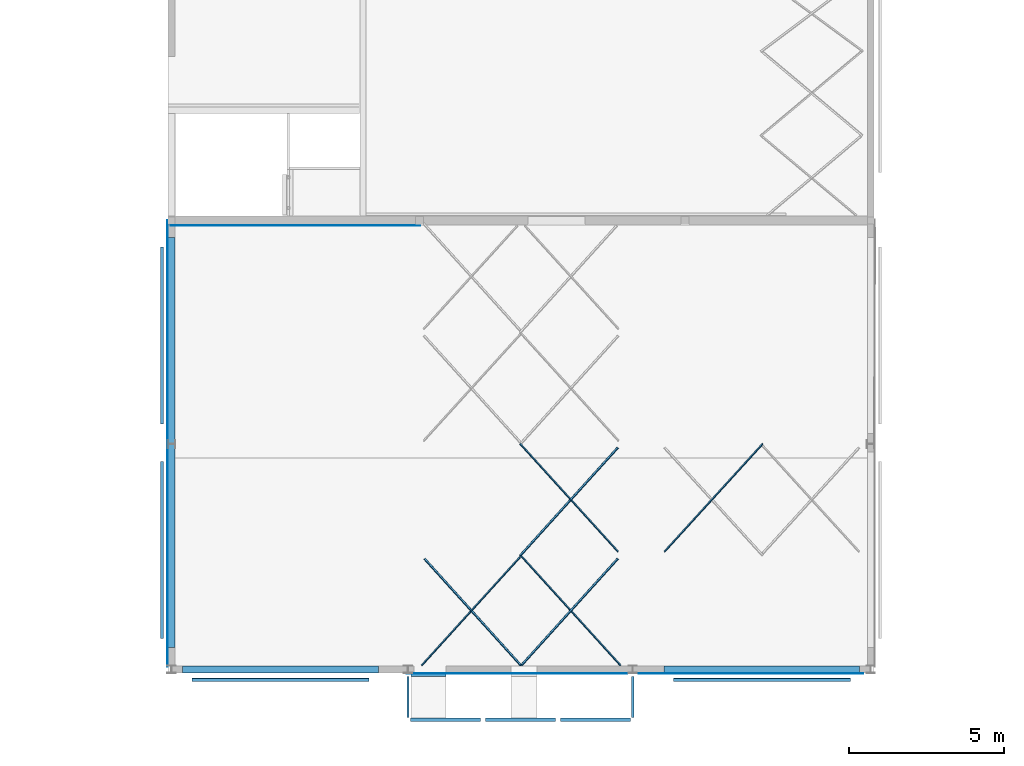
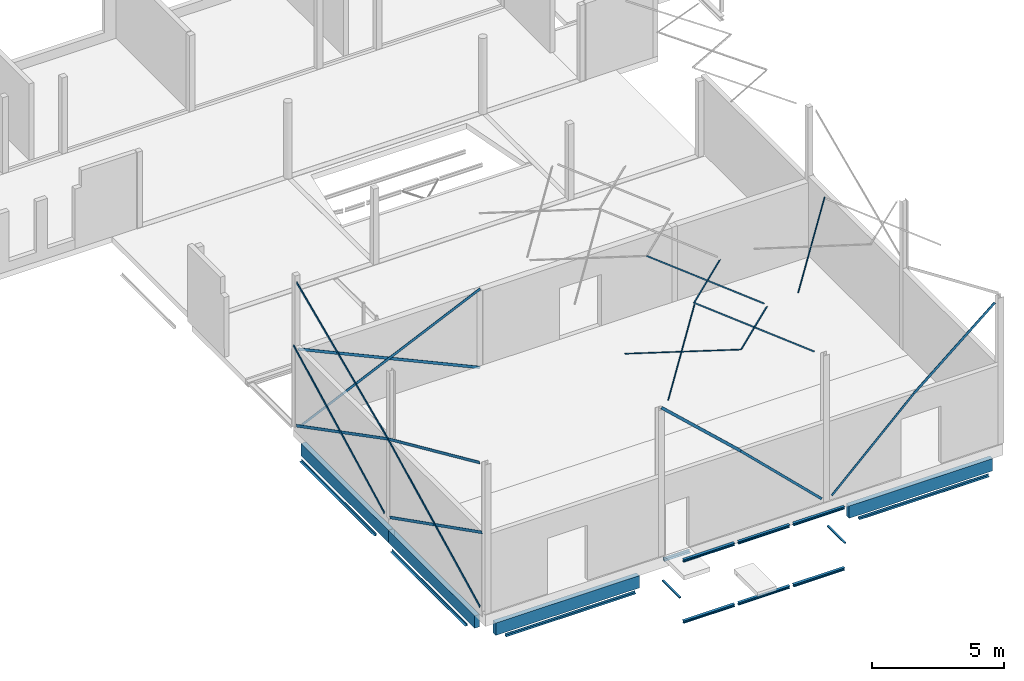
# One storey, part 5 of 14: 36 beams.
"""IFC2X3 building model written with IfcOpenShell, lengths in millimetres."""

from ifc_helpers import new_model, entity, si_unit, converted_unit, derived_unit, direction, frame, frame_2d, origin, origin_2d_with_axis, place, context, subcontext, project, spatial, polyline, rectangle, i_section, outline, extrude, boolean, material, type_object, element, save


model = new_model("IFC2X3")

# Units and contexts
model_context = context("Model", 3, precision=0.01, world=origin(), true_north=direction((6.123031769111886e-17, 1.0)))
body_context = subcontext(model_context, "Body", "Model", "MODEL_VIEW")
ifc_project = project(units=[si_unit("LENGTHUNIT", "METRE", prefix="MILLI"), si_unit("AREAUNIT", "SQUARE_METRE", prefix="MILLI"), si_unit("VOLUMEUNIT", "CUBIC_METRE"), converted_unit("PLANEANGLEUNIT", "DEGREE", entity("IfcPlaneAngleMeasure", 0.017453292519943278), si_unit("PLANEANGLEUNIT", "RADIAN"), dimensions=[0, 0, 0, 0, 0, 0, 0]), si_unit("MASSUNIT", "GRAM", prefix="KILO"), derived_unit("MASSDENSITYUNIT", [(si_unit("MASSUNIT", "GRAM", prefix="KILO"), 1), (si_unit("LENGTHUNIT", "METRE"), -3)]), derived_unit("IONCONCENTRATIONUNIT", [(si_unit("MASSUNIT", "GRAM", prefix="KILO"), 1), (si_unit("LENGTHUNIT", "METRE"), -3)]), derived_unit("MOMENTOFINERTIAUNIT", [(si_unit("LENGTHUNIT", "METRE"), 4)]), si_unit("TIMEUNIT", "SECOND"), si_unit("FREQUENCYUNIT", "HERTZ"), si_unit("THERMODYNAMICTEMPERATUREUNIT", "DEGREE_CELSIUS"), derived_unit("THERMALTRANSMITTANCEUNIT", [(si_unit("MASSUNIT", "GRAM", prefix="KILO"), 1), (si_unit("THERMODYNAMICTEMPERATUREUNIT", "KELVIN"), -1), (si_unit("TIMEUNIT", "SECOND"), -3)]), derived_unit("THERMALCONDUCTANCEUNIT", [(si_unit("MASSUNIT", "GRAM", prefix="KILO"), 1), (si_unit("THERMODYNAMICTEMPERATUREUNIT", "KELVIN"), -1), (si_unit("TIMEUNIT", "SECOND"), -3), (si_unit("LENGTHUNIT", "METRE"), 1)]), derived_unit("VOLUMETRICFLOWRATEUNIT", [(si_unit("LENGTHUNIT", "METRE", prefix="DECI"), 3), (si_unit("TIMEUNIT", "SECOND"), -1)]), derived_unit("MASSFLOWRATEUNIT", [(si_unit("MASSUNIT", "GRAM", prefix="KILO"), 1), (si_unit("TIMEUNIT", "SECOND"), -1)]), derived_unit("ROTATIONALFREQUENCYUNIT", [(si_unit("TIMEUNIT", "SECOND"), -1)]), si_unit("ELECTRICCURRENTUNIT", "AMPERE"), si_unit("ELECTRICVOLTAGEUNIT", "VOLT"), si_unit("POWERUNIT", "WATT"), si_unit("FORCEUNIT", "NEWTON", prefix="KILO"), si_unit("ILLUMINANCEUNIT", "LUX"), si_unit("LUMINOUSFLUXUNIT", "LUMEN"), si_unit("LUMINOUSINTENSITYUNIT", "CANDELA"), si_unit("ENERGYUNIT", "JOULE"), derived_unit("USERDEFINED", [(si_unit("MASSUNIT", "GRAM", prefix="KILO"), -1), (si_unit("LENGTHUNIT", "METRE"), -2), (si_unit("TIMEUNIT", "SECOND"), 3), (si_unit("LUMINOUSFLUXUNIT", "LUMEN"), 1)]), derived_unit("USERDEFINED", [(si_unit("MASSUNIT", "GRAM", prefix="KILO"), 1), (si_unit("TIMEUNIT", "SECOND"), -3), (si_unit("LENGTHUNIT", "METRE"), 3), (si_unit("ELECTRICCURRENTUNIT", "AMPERE"), -2)]), derived_unit("SOUNDPOWERUNIT", [(si_unit("MASSUNIT", "GRAM", prefix="KILO"), 1), (si_unit("TIMEUNIT", "SECOND"), -3), (si_unit("LENGTHUNIT", "METRE"), 2)]), derived_unit("SOUNDPRESSUREUNIT", [(si_unit("MASSUNIT", "GRAM", prefix="KILO"), 1), (si_unit("LENGTHUNIT", "METRE"), -1), (si_unit("TIMEUNIT", "SECOND"), -2)]), derived_unit("LINEARVELOCITYUNIT", [(si_unit("LENGTHUNIT", "METRE"), 1), (si_unit("TIMEUNIT", "SECOND"), -1)]), si_unit("PRESSUREUNIT", "PASCAL"), derived_unit("USERDEFINED", [(si_unit("MASSUNIT", "GRAM", prefix="KILO"), 1), (si_unit("LENGTHUNIT", "METRE"), -2), (si_unit("TIMEUNIT", "SECOND"), -2)]), derived_unit("LINEARFORCEUNIT", [(si_unit("MASSUNIT", "GRAM", prefix="KILO"), 1), (si_unit("TIMEUNIT", "SECOND"), -2)]), derived_unit("PLANARFORCEUNIT", [(si_unit("MASSUNIT", "GRAM", prefix="KILO"), 1), (si_unit("LENGTHUNIT", "METRE"), -1), (si_unit("TIMEUNIT", "SECOND"), -2)]), derived_unit("SPECIFICHEATCAPACITYUNIT", [(si_unit("THERMODYNAMICTEMPERATUREUNIT", "KELVIN"), -1), (si_unit("LENGTHUNIT", "METRE"), 2), (si_unit("TIMEUNIT", "SECOND"), -2)]), derived_unit("HEATFLUXDENSITYUNIT", [(si_unit("MASSUNIT", "GRAM", prefix="KILO"), 1), (si_unit("TIMEUNIT", "SECOND"), -3)]), derived_unit("HEATINGVALUEUNIT", [(si_unit("LENGTHUNIT", "METRE"), 2), (si_unit("TIMEUNIT", "SECOND"), -2)]), derived_unit("VAPORPERMEABILITYUNIT", [(si_unit("LENGTHUNIT", "METRE"), -1), (si_unit("TIMEUNIT", "SECOND"), 1)]), derived_unit("DYNAMICVISCOSITYUNIT", [(si_unit("MASSUNIT", "GRAM", prefix="KILO"), 1), (si_unit("TIMEUNIT", "SECOND"), -1), (si_unit("LENGTHUNIT", "METRE"), -1)]), derived_unit("THERMALEXPANSIONCOEFFICIENTUNIT", [(si_unit("THERMODYNAMICTEMPERATUREUNIT", "KELVIN"), -1)]), derived_unit("MODULUSOFELASTICITYUNIT", [(si_unit("MASSUNIT", "GRAM", prefix="KILO"), 1), (si_unit("LENGTHUNIT", "METRE"), -1), (si_unit("TIMEUNIT", "SECOND"), -2)]), derived_unit("ISOTHERMALMOISTURECAPACITYUNIT", [(si_unit("MASSUNIT", "GRAM", prefix="KILO"), -1), (si_unit("LENGTHUNIT", "METRE"), 3)]), derived_unit("MOISTUREDIFFUSIVITYUNIT", [(si_unit("TIMEUNIT", "SECOND"), -1), (si_unit("LENGTHUNIT", "METRE"), 2)]), derived_unit("MASSPERLENGTHUNIT", [(si_unit("MASSUNIT", "GRAM", prefix="KILO"), 1), (si_unit("LENGTHUNIT", "METRE"), -1)]), derived_unit("THERMALRESISTANCEUNIT", [(si_unit("MASSUNIT", "GRAM", prefix="KILO"), -1), (si_unit("TIMEUNIT", "SECOND"), 3), (si_unit("THERMODYNAMICTEMPERATUREUNIT", "KELVIN"), 1)]), derived_unit("ACCELERATIONUNIT", [(si_unit("LENGTHUNIT", "METRE"), 1), (si_unit("TIMEUNIT", "SECOND"), -2)]), derived_unit("ANGULARVELOCITYUNIT", [(si_unit("TIMEUNIT", "SECOND"), -1), (si_unit("PLANEANGLEUNIT", "RADIAN"), 1)]), derived_unit("LINEARSTIFFNESSUNIT", [(si_unit("MASSUNIT", "GRAM", prefix="KILO"), 1), (si_unit("TIMEUNIT", "SECOND"), -2)]), derived_unit("WARPINGCONSTANTUNIT", [(si_unit("LENGTHUNIT", "METRE"), 6)]), derived_unit("LINEARMOMENTUNIT", [(si_unit("MASSUNIT", "GRAM", prefix="KILO"), 1), (si_unit("LENGTHUNIT", "METRE"), 1), (si_unit("TIMEUNIT", "SECOND"), -2)]), derived_unit("TORQUEUNIT", [(si_unit("MASSUNIT", "GRAM", prefix="KILO"), 1), (si_unit("LENGTHUNIT", "METRE"), 2), (si_unit("TIMEUNIT", "SECOND"), -2)])], contexts=[model_context])

# Site, building, storey
site_placement = place(None, origin())
site = spatial("IfcSite", under=ifc_project, at=site_placement, Name="Default", CompositionType="ELEMENT")
building_placement = place(site_placement, origin())
building = spatial("IfcBuilding", under=site, at=building_placement, CompositionType="ELEMENT")
storey_placement = place(building_placement, frame((0.0, 0.0, 3730.0)))
storey = spatial("IfcBuildingStorey", under=building, at=storey_placement, Name="V1 1e verd. (bk ruwe vloer)", CompositionType="ELEMENT", Elevation=3729.9999999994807)

# Beams
ifc_material_1 = material(Name="Metal - Steel - S235 JRG2 (standaard)")
beam_type_1 = type_object("IfcBeamType", Name="btl_staal - Strip b x h:120x12 Vwvb", PredefinedType="NOTDEFINED")
beam_1_placement = place(storey_placement, frame((14699.863108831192, 17338.605013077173, 0.0), z_axis=(0.41591473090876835, 0.0, 0.9094036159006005), x_axis=(-0.9094036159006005, 0.0, 0.41591473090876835)))
element("IfcBeam", 1, at=beam_1_placement, inside=storey, type_object=beam_type_1, material=ifc_material_1, Name="btl_staal - Strip b x h:120x12 Vwvb", ObjectType="btl_staal - Strip b x h:120x12 Vwvb", context=body_context, shape_type="SweptSolid", body=[
    extrude(rectangle(XDim=119.99999999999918, YDim=12.00000000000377, at=frame_2d((-4.938272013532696e-13, -1.0826894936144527e-12), x_axis=(1.0, 0.0))), frame((0.0, 0.0, 0.0), z_axis=(1.0, 0.0, 0.0), x_axis=(0.0, 0.0, -1.0)), (0.0, 0.0, 1.0), 8777.029459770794),
])
beam_2_placement = place(storey_placement, frame((6592.000781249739, 17501.361760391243, 6967.95310455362), z_axis=(0.0, -0.4024576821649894, 0.9154385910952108), x_axis=(0.0, -0.9154385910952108, -0.4024576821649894)))
element("IfcBeam", 2, at=beam_2_placement, inside=storey, type_object=beam_type_1, material=ifc_material_1, Name="btl_staal - Strip b x h:120x12 Vwvb", ObjectType="btl_staal - Strip b x h:120x12 Vwvb", context=body_context, shape_type="SweptSolid", body=[
    extrude(rectangle(XDim=119.9999999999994, YDim=12.00000000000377, at=frame_2d((-1.4281908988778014e-12, 0.0), x_axis=(1.0, 0.0))), frame((300.0, -5.0, 0.0), z_axis=(1.0, 0.0, 0.0), x_axis=(0.0, 0.0, -1.0)), (0.0, 0.0, 1.0), 7571.518534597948),
])
beam_3_placement = place(storey_placement, frame((6592.000781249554, 3043.397231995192, 7054.203124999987), z_axis=(0.0, 0.4094426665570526, 0.9123358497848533), x_axis=(0.0, 0.9123358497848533, -0.4094426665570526)))
element("IfcBeam", 3, at=beam_3_placement, inside=storey, type_object=beam_type_1, material=ifc_material_1, Name="btl_staal - Strip b x h:120x12 Vwvb", ObjectType="btl_staal - Strip b x h:120x12 Vwvb", context=body_context, shape_type="SweptSolid", body=[
    extrude(rectangle(XDim=120.00000000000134, YDim=12.000000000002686, at=frame_2d((0.0, -5.413447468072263e-13), x_axis=(1.0, 0.0))), frame((300.0, 5.0, 0.0), z_axis=(1.0, 0.0, 0.0), x_axis=(0.0, 0.0, -1.0)), (0.0, 0.0, 1.0), 7647.884748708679),
])
beam_4_placement = place(storey_placement, frame((6828.0007812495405, 17338.605013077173, 50.30837749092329), z_axis=(-0.41591473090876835, 0.0, 0.9094036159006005), x_axis=(0.9094036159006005, 0.0, 0.41591473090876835)))
element("IfcBeam", 4, at=beam_4_placement, inside=storey, type_object=beam_type_1, material=ifc_material_1, Name="btl_staal - Strip b x h:120x12 Vwvb", ObjectType="btl_staal - Strip b x h:120x12 Vwvb", context=body_context, shape_type="SweptSolid", body=[
    extrude(rectangle(XDim=120.0000000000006, YDim=12.00000000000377, at=frame_2d((-7.212008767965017e-13, 0.0), x_axis=(1.0, 0.0))), frame((0.0, 0.0, 0.0), z_axis=(1.0, 0.0, 0.0), x_axis=(0.0, 0.0, -1.0)), (0.0, 0.0, 1.0), 8656.071066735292),
])
beam_5_placement = place(storey_placement, frame((6592.000781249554, 10295.441499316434, 3800.0), z_axis=(0.0, -0.4521806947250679, 0.8919263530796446), x_axis=(0.0, -0.8919263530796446, -0.4521806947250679)))
element("IfcBeam", 5, at=beam_5_placement, inside=storey, type_object=beam_type_1, material=ifc_material_1, Name="btl_staal - Strip b x h:120x12 Vwvb", ObjectType="btl_staal - Strip b x h:120x12 Vwvb", context=body_context, shape_type="SweptSolid", body=[
    extrude(rectangle(XDim=119.99999999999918, YDim=12.000000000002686, at=frame_2d((-9.734435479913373e-13, -5.413447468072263e-13), x_axis=(1.0, 0.0))), frame((0.0, -5.0, 0.0), z_axis=(1.0, 0.0, 0.0), x_axis=(0.0, 0.0, -1.0)), (0.0, 0.0, 1.0), 7838.339480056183),
])
beam_6_placement = place(storey_placement, frame((6592.0007812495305, 10295.473670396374, 3800.0), z_axis=(0.0, 0.4600638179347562, 0.88788585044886), x_axis=(0.0, 0.88788585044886, -0.4600638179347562)))
element("IfcBeam", 6, at=beam_6_placement, inside=storey, type_object=beam_type_1, material=ifc_material_1, Name="btl_staal - Strip b x h:120x12 Vwvb", ObjectType="btl_staal - Strip b x h:120x12 Vwvb", context=body_context, shape_type="SweptSolid", body=[
    extrude(rectangle(XDim=120.00000000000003, YDim=12.00000000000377, at=frame_2d((-9.627854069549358e-13, 5.413447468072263e-13), x_axis=(1.0, 0.0))), frame((28.764989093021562, 5.0, 0.0), z_axis=(1.0, 0.0, 0.0), x_axis=(0.0, 0.0, -1.0)), (0.0, 0.0, 1.0), 7778.80586215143),
])
beam_7_placement = place(storey_placement, frame((25402.144051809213, 2907.6050130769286, 3800.0), z_axis=(-0.641634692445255, 0.0, 0.7670103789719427), x_axis=(0.7670103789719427, 0.0, 0.641634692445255)))
element("IfcBeam", 7, at=beam_7_placement, inside=storey, type_object=beam_type_1, material=ifc_material_1, Name="btl_staal - Strip b x h:120x12 Vwvb", ObjectType="btl_staal - Strip b x h:120x12 Vwvb", context=body_context, shape_type="SweptSolid", body=[
    extrude(rectangle(XDim=119.9999999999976, YDim=12.00000000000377, at=frame_2d((0.0, 2.708944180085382e-13), x_axis=(1.0, 0.0))), frame((0.0, 0.0, 0.0), z_axis=(1.0, 0.0, 0.0), x_axis=(0.0, 0.0, -1.0)), (0.0, 0.0, 1.0), 4637.3158314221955),
])
beam_8_placement = place(storey_placement, frame((17801.412792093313, 2907.605013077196, 3800.0), z_axis=(0.6798907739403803, 0.0, 0.7333133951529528), x_axis=(-0.7333133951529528, 0.0, 0.6798907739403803)))
element("IfcBeam", 8, at=beam_8_placement, inside=storey, type_object=beam_type_1, material=ifc_material_1, Name="btl_staal - Strip b x h:120x12 Vwvb", ObjectType="btl_staal - Strip b x h:120x12 Vwvb", context=body_context, shape_type="SweptSolid", body=[
    extrude(rectangle(XDim=119.99999999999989, YDim=12.00000000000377, at=frame_2d((-1.9255708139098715e-12, 0.0), x_axis=(1.0, 0.0))), frame((0.0, 0.0, 0.0), z_axis=(1.0, 0.0, 0.0), x_axis=(0.0, 0.0, -1.0)), (0.0, 0.0, 1.0), 4730.102610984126),
])
beam_9_placement = place(storey_placement, frame((6592.000781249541, 17493.73635575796, 3800.0), z_axis=(0.0, -0.4600638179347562, 0.88788585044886), x_axis=(0.0, -0.88788585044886, -0.4600638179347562)))
element("IfcBeam", 9, at=beam_9_placement, inside=storey, type_object=beam_type_1, material=ifc_material_1, Name="btl_staal - Strip b x h:120x12 Vwvb", ObjectType="btl_staal - Strip b x h:120x12 Vwvb", context=body_context, shape_type="SweptSolid", body=[
    extrude(rectangle(XDim=120.00000000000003, YDim=12.000000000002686, at=frame_2d((9.627854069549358e-13, -5.413447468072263e-13), x_axis=(1.0, 0.0))), frame((28.764989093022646, -5.0, 0.0), z_axis=(1.0, 0.0, 0.0), x_axis=(0.0, 0.0, -1.0)), (0.0, 0.0, 1.0), 7778.80586215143),
])
beam_10_placement = place(storey_placement, frame((6592.000781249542, 3143.768526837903, 3800.0), z_axis=(0.0, 0.4521806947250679, 0.8919263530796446), x_axis=(0.0, 0.8919263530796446, -0.4521806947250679)))
element("IfcBeam", 10, at=beam_10_placement, inside=storey, type_object=beam_type_1, material=ifc_material_1, Name="btl_staal - Strip b x h:120x12 Vwvb", ObjectType="btl_staal - Strip b x h:120x12 Vwvb", context=body_context, shape_type="SweptSolid", body=[
    extrude(rectangle(XDim=119.99999999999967, YDim=12.00000000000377, at=frame_2d((1.0871303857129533e-12, 0.0), x_axis=(1.0, 0.0))), frame((0.0, 5.0, 0.0), z_axis=(1.0, 0.0, 0.0), x_axis=(0.0, 0.0, -1.0)), (0.0, 0.0, 1.0), 7838.339480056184),
])
beam_type_2 = type_object("IfcBeamType", Name="btl_staal - Strip b x h:10x100 verticaal", PredefinedType="NOTDEFINED")
beam_11_placement = place(storey_placement, frame((21583.63565714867, 2907.605013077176, 120.0), z_axis=(-0.6938242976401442, 0.0, 0.7201443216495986), x_axis=(0.7201443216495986, 0.0, 0.6938242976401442)))
element("IfcBeam", 11, at=beam_11_placement, inside=storey, type_object=beam_type_2, material=ifc_material_1, Name="btl_staal - Strip b x h:10x100 verticaal", ObjectType="btl_staal - Strip b x h:10x100 verticaal", context=body_context, shape_type="SweptSolid", body=[
    extrude(rectangle(XDim=99.99999999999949, YDim=10.00000000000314, at=frame_2d((1.9539925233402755e-13, 5.413447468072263e-13), x_axis=(1.0, 0.0))), frame((300.0, 0.0, 0.0), z_axis=(1.0, 0.0, 0.0), x_axis=(0.0, 0.0, -1.0)), (0.0, 0.0, 1.0), 5003.936475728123),
])
beam_12_placement = place(storey_placement, frame((21573.801634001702, 2907.6050130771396, 120.0), z_axis=(0.6977133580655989, 0.0, 0.7163770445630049), x_axis=(-0.7163770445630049, 0.0, 0.6977133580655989)))
element("IfcBeam", 12, at=beam_12_placement, inside=storey, type_object=beam_type_2, material=ifc_material_1, Name="btl_staal - Strip b x h:10x100 verticaal", ObjectType="btl_staal - Strip b x h:10x100 verticaal", context=body_context, shape_type="SweptSolid", body=[
    extrude(rectangle(XDim=100.00000000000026, YDim=10.00000000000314, at=frame_2d((1.9539925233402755e-13, 5.413447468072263e-13), x_axis=(1.0, 0.0))), frame((300.0, 0.0, 0.0), z_axis=(1.0, 0.0, 0.0), x_axis=(0.0, 0.0, -1.0)), (0.0, 0.0, 1.0), 4974.372286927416),
])
ifc_material_2 = material(Name="Beton, prefab")
beam_type_3 = type_object("IfcBeamType", Name="btl_prefab - RBeam:214x572", PredefinedType="NOTDEFINED")
beam_13_placement = place(storey_placement, frame((6718.000781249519, 16643.398831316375, -450.0), z_axis=(0.0, 0.0, 1.0), x_axis=(0.0, -1.0, 0.0)))
element("IfcBeam", 13, at=beam_13_placement, inside=storey, type_object=beam_type_3, material=ifc_material_2, Name="btl_prefab - RBeam:214x572", ObjectType="btl_prefab - RBeam:214x572", context=body_context, shape_type="SweptSolid", body=[
    extrude(rectangle(XDim=571.9999999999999, YDim=214.00000000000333, at=origin_2d_with_axis()), frame((-300.0, 0.0, -286.0), z_axis=(1.0, 0.0, 0.0), x_axis=(0.0, 0.0, -1.0)), (0.0, 0.0, 1.0), 6638.7938182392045),
])
beam_14_placement = place(storey_placement, frame((6718.00078124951, 10294.605013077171, -450.0), z_axis=(0.0, 0.0, 1.0), x_axis=(0.0, -1.0, 0.0)))
element("IfcBeam", 14, at=beam_14_placement, inside=storey, type_object=beam_type_3, material=ifc_material_2, Name="btl_prefab - RBeam:214x572", ObjectType="btl_prefab - RBeam:214x572", context=body_context, shape_type="SweptSolid", body=[
    extrude(rectangle(XDim=571.9999999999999, YDim=214.00000000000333, at=origin_2d_with_axis()), frame((10.0, 0.0, -286.0), z_axis=(1.0, 0.0, 0.0), x_axis=(0.0, 0.0, -1.0)), (0.0, 0.0, 1.0), 6546.999999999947),
])
beam_15_placement = place(storey_placement, frame((7374.936325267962, 3037.605013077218, -450.0)))
element("IfcBeam", 15, at=beam_15_placement, inside=storey, type_object=beam_type_3, material=ifc_material_2, Name="btl_prefab - RBeam:214x572", ObjectType="btl_prefab - RBeam:214x572", context=body_context, shape_type="SweptSolid", body=[
    extrude(rectangle(XDim=571.9999999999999, YDim=214.00000000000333, at=frame_2d((0.0, 2.05773176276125e-11), x_axis=(1.0, 0.0))), frame((-300.0, 0.0, -286.0), z_axis=(1.0, 0.0, 0.0), x_axis=(0.0, 0.0, -1.0)), (0.0, 0.0, 1.0), 6301.082935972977),
])
beam_16_placement = place(storey_placement, frame((22875.646320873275, 3037.605013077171, -450.0)))
element("IfcBeam", 16, at=beam_16_placement, inside=storey, type_object=beam_type_3, material=ifc_material_2, Name="btl_prefab - RBeam:214x572", ObjectType="btl_prefab - RBeam:214x572", context=body_context, shape_type="SweptSolid", body=[
    extrude(rectangle(XDim=571.9999999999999, YDim=214.00000000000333, at=frame_2d((0.0, 2.05773176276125e-11), x_axis=(1.0, 0.0))), frame((-300.0, 0.0, -286.0), z_axis=(1.0, 0.0, 0.0), x_axis=(0.0, 0.0, -1.0)), (0.0, 0.0, 1.0), 6300.30152839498),
])
beam_type_4 = type_object("IfcBeamType", Name="btl_staal - HE(a-b-m):HEA120", PredefinedType="NOTDEFINED")
beam_17_placement = place(storey_placement, frame((14399.0552522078, 1419.517315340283, -1980.0)))
element("IfcBeam", 17, at=beam_17_placement, inside=storey, type_object=beam_type_4, material=ifc_material_1, Name="btl_staal - HE(a-b-m):HEA120", ObjectType="btl_staal - HE(a-b-m):HEA120", context=body_context, shape_type="SweptSolid", body=[
    extrude(i_section(OverallWidth=120.00000000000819, OverallDepth=113.9999999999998, WebThickness=4.999999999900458, FlangeThickness=8.000000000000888, at=frame_2d((6.785683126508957e-13, 2.7355895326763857e-13), x_axis=(0.0, 1.0))), frame((16.2000000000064, 0.0, -57.0), z_axis=(1.0, 0.0, 0.0), x_axis=(0.0, 0.0, -1.0)), (0.0, 0.0, 1.0), 2248.224936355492),
])
beam_18_placement = place(storey_placement, frame((14399.055252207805, 1419.517315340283, 857.749944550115)))
element("IfcBeam", 18, at=beam_18_placement, inside=storey, type_object=beam_type_4, material=ifc_material_1, Name="btl_staal - HE(a-b-m):HEA120", ObjectType="btl_staal - HE(a-b-m):HEA120", context=body_context, shape_type="SweptSolid", body=[
    extrude(i_section(OverallWidth=120.00000000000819, OverallDepth=114.00000000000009, WebThickness=4.999999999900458, FlangeThickness=8.000000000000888, at=frame_2d((0.0, 2.7355895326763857e-13), x_axis=(0.0, 1.0))), frame((16.2000000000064, 0.0, -57.0), z_axis=(1.0, 0.0, 0.0), x_axis=(0.0, 0.0, -1.0)), (0.0, 0.0, 1.0), 2248.224936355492),
])
beam_19_placement = place(storey_placement, frame((16746.180188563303, 1419.5173153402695, -1980.0)))
element("IfcBeam", 19, at=beam_19_placement, inside=storey, type_object=beam_type_4, material=ifc_material_1, Name="btl_staal - HE(a-b-m):HEA120", ObjectType="btl_staal - HE(a-b-m):HEA120", context=body_context, shape_type="SweptSolid", body=[
    extrude(i_section(OverallWidth=120.00000000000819, OverallDepth=114.00000000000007, WebThickness=4.999999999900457, FlangeThickness=8.000000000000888, at=frame_2d((5.435651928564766e-13, 0.0), x_axis=(0.0, 1.0))), frame((82.70000000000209, 0.0, -57.0), z_axis=(1.0, 0.0, 0.0), x_axis=(0.0, 0.0, -1.0)), (0.0, 0.0, 1.0), 2248.224936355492),
])
beam_20_placement = place(storey_placement, frame((19159.805124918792, 1419.5173153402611, -1980.0)))
element("IfcBeam", 20, at=beam_20_placement, inside=storey, type_object=beam_type_4, material=ifc_material_1, Name="btl_staal - HE(a-b-m):HEA120", ObjectType="btl_staal - HE(a-b-m):HEA120", context=body_context, shape_type="SweptSolid", body=[
    extrude(i_section(OverallWidth=120.00000000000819, OverallDepth=113.9999999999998, WebThickness=4.999999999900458, FlangeThickness=8.000000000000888, at=frame_2d((6.785683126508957e-13, 2.7355895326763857e-13), x_axis=(0.0, 1.0))), frame((82.69999999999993, 0.0, -57.0), z_axis=(1.0, 0.0, 0.0), x_axis=(0.0, 0.0, -1.0)), (0.0, 0.0, 1.0), 2248.2249363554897),
])
beam_21_placement = place(storey_placement, frame((19159.805124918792, 1419.5173153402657, 857.749944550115)))
element("IfcBeam", 21, at=beam_21_placement, inside=storey, type_object=beam_type_4, material=ifc_material_1, Name="btl_staal - HE(a-b-m):HEA120", ObjectType="btl_staal - HE(a-b-m):HEA120", context=body_context, shape_type="SweptSolid", body=[
    extrude(i_section(OverallWidth=120.00000000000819, OverallDepth=114.00000000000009, WebThickness=4.999999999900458, FlangeThickness=8.000000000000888, at=frame_2d((0.0, 2.7355895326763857e-13), x_axis=(0.0, 1.0))), frame((82.70000000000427, 0.0, -57.0), z_axis=(1.0, 0.0, 0.0), x_axis=(0.0, 0.0, -1.0)), (0.0, 0.0, 1.0), 2248.2249363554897),
])
beam_type_5 = type_object("IfcBeamType", Name="btl_staal - Hoeklijn 2.0:L120x120x12", PredefinedType="NOTDEFINED")
beam_22_placement = place(storey_placement, frame((14424.056568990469, 2896.605013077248, 28.0)))
element("IfcBeam", 22, at=beam_22_placement, inside=storey, type_object=beam_type_5, material=ifc_material_1, Name="btl_staal - Hoeklijn 2.0:L120x120x12", ObjectType="btl_staal - Hoeklijn 2.0:L120x120x12", context=body_context, shape_type="SweptSolid", body=[
    extrude(outline(polyline([(32.0, -76.0), (44.0, -76.0), (44.0, 44.0), (-76.0, 44.0), (-76.0, 32.0), (32.0, 32.0), (32.0, -76.0)])), frame((0.0, -10.0, -76.0), z_axis=(1.0, 0.0, 0.0), x_axis=(0.0, 0.0, -1.0)), (0.0, 0.0, 1.0), 1135.5598082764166),
])
beam_type_6 = type_object("IfcBeamType", Name="btl_staal - HE(a-b-m):HEB120", PredefinedType="NOTDEFINED")
beam_23_placement = place(storey_placement, frame((16746.180188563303, 1419.5173153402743, 857.749944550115)))
element("IfcBeam", 23, at=beam_23_placement, inside=storey, type_object=beam_type_6, material=ifc_material_1, Name="btl_staal - HE(a-b-m):HEB120", ObjectType="btl_staal - HE(a-b-m):HEB120", context=body_context, shape_type="SweptSolid", body=[
    extrude(i_section(OverallWidth=120.00000000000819, OverallDepth=119.9999999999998, WebThickness=6.499999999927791, FlangeThickness=11.000000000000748, at=frame_2d((5.435651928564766e-13, 5.435651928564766e-13), x_axis=(0.0, 1.0))), frame((82.70000000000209, 0.0, -60.0), z_axis=(1.0, 0.0, 0.0), x_axis=(0.0, 0.0, -1.0)), (0.0, 0.0, 1.0), 2248.224936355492),
])
ifc_material_3 = material(Name="Metal - Steel - S275 J0H (standaard-kokers/buizen)")
beam_type_7 = type_object("IfcBeamType", Name="btl_staal - Koker:K80x40x5.0", PredefinedType="NOTDEFINED")
beam_24_placement = place(storey_placement, frame((14332.555252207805, 1336.88688029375, -940.0), z_axis=(0.0, 0.0, 1.0), x_axis=(0.0, 1.0, 0.0)))
element("IfcBeam", 24, at=beam_24_placement, inside=storey, type_object=beam_type_7, material=ifc_material_3, Name="btl_staal - Koker:K80x40x5.0", ObjectType="btl_staal - Koker:K80x40x5.0", context=body_context, shape_type="SweptSolid", body=[
    boolean("DIFFERENCE", extrude(rectangle(XDim=40.000000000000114, YDim=80.00000000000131, at=frame_2d((-2.717825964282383e-13, -2.163602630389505e-12), x_axis=(1.0, 0.0))), frame((155.33043504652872, 0.0, 0.0), z_axis=(1.0, 0.0, 0.0), x_axis=(0.0, 0.0, -1.0)), (0.0, 0.0, 1.0), 1318.5679537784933), extrude(rectangle(XDim=29.999999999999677, YDim=69.99999999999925, at=frame_2d((0.0, -2.708944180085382e-13), x_axis=(0.0, 1.0))), frame((1473.898388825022, 0.0, 0.0), z_axis=(-1.0, 0.0, 0.0), x_axis=(0.0, 1.0, 0.0)), (0.0, 0.0, 1.0), 1318.5679537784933)),
])
beam_25_placement = place(storey_placement, frame((21573.430061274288, 1336.8868802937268, -940.0), z_axis=(0.0, 0.0, 1.0), x_axis=(0.0, 1.0, 0.0)))
element("IfcBeam", 25, at=beam_25_placement, inside=storey, type_object=beam_type_7, material=ifc_material_3, Name="btl_staal - Koker:K80x40x5.0", ObjectType="btl_staal - Koker:K80x40x5.0", context=body_context, shape_type="SweptSolid", body=[
    boolean("DIFFERENCE", extrude(rectangle(XDim=40.000000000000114, YDim=79.99999999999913, at=frame_2d((-2.717825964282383e-13, 0.0), x_axis=(1.0, 0.0))), frame((155.33043504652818, 0.0, 0.0), z_axis=(1.0, 0.0, 0.0), x_axis=(0.0, 0.0, -1.0)), (0.0, 0.0, 1.0), 1318.5679537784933), extrude(rectangle(XDim=29.999999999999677, YDim=70.0000000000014, at=frame_2d((0.0, -2.708944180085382e-13), x_axis=(0.0, 1.0))), frame((1473.8983888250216, 0.0, 0.0), z_axis=(-1.0, 0.0, 0.0), x_axis=(0.0, 1.0, 0.0)), (0.0, 0.0, 1.0), 1318.5679537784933)),
])
beam_type_8 = type_object("IfcBeamType", Name="btl_staal - Hoeklijn 2.0:L 60X60X8", PredefinedType="NOTDEFINED")
beam_26_placement = place(storey_placement, frame((21205.85020331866, 10294.60501307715, 7100.633449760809), z_axis=(0.1670447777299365, 0.18482500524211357, 0.9684708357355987), x_axis=(-0.6493797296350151, -0.7184996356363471, 0.24912695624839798)))
element("IfcBeam", 26, at=beam_26_placement, inside=storey, type_object=beam_type_8, material=ifc_material_1, Name="btl_staal - Hoeklijn 2.0:L 60X60X8", ObjectType="btl_staal - Hoeklijn 2.0:L 60X60X8", context=body_context, shape_type="SweptSolid", body=[
    extrude(outline(polyline([(-22.66666666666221, -22.666666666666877), (37.33333333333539, -22.66666666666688), (37.333333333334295, -14.666666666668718), (-14.666666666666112, -14.666666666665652), (-14.666666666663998, 37.33333333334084), (-22.666666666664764, 37.333333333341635), (-22.66666666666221, -22.666666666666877)])), frame((154.80704312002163, -4.567050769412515, -37.466776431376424), z_axis=(1.0, 0.0, 0.0), x_axis=(0.0, 0.2657336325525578, 0.9640464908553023)), (0.0, 0.0, 1.0), 4836.778964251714),
])
beam_27_placement = place(storey_placement, frame((21214.984193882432, 6719.605013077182, 7097.129300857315), z_axis=(0.16785221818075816, -0.18487892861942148, 0.9683209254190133), x_axis=(-0.6508969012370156, 0.7169230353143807, 0.24970900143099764)))
element("IfcBeam", 27, at=beam_27_placement, inside=storey, type_object=beam_type_8, material=ifc_material_1, Name="btl_staal - Hoeklijn 2.0:L 60X60X8", ObjectType="btl_staal - Hoeklijn 2.0:L 60X60X8", context=body_context, shape_type="SweptSolid", body=[
    extrude(outline(polyline([(-22.666666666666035, -22.666666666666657), (37.33333333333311, -22.666666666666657), (37.33333333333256, -14.666666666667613), (-14.666666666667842, -14.666666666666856), (-14.666666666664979, 37.333333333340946), (-22.666666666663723, 37.33333333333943), (-22.666666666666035, -22.666666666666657)])), frame((151.72976141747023, 15.254986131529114, -34.523943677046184), z_axis=(1.0, 0.0, 0.0), x_axis=(0.0, -0.26519158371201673, 0.9641957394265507)), (0.0, 0.0, 1.0), 4846.1501468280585),
])
beam_28_placement = place(storey_placement, frame((14744.122080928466, 6719.605013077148, 7100.633449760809), z_axis=(-0.1670447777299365, 0.18482500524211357, 0.9684708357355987), x_axis=(0.6493797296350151, -0.7184996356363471, 0.24912695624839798)))
element("IfcBeam", 28, at=beam_28_placement, inside=storey, type_object=beam_type_8, material=ifc_material_1, Name="btl_staal - Hoeklijn 2.0:L 60X60X8", ObjectType="btl_staal - Hoeklijn 2.0:L 60X60X8", context=body_context, shape_type="SweptSolid", body=[
    extrude(outline(polyline([(-37.333333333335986, -14.666666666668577), (-37.3333333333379, -22.666666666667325), (22.666666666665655, -22.66666666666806), (22.666666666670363, 37.33333333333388), (14.666666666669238, 37.33333333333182), (14.666666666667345, -14.666666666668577), (-37.333333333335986, -14.666666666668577)])), frame((154.80704311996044, 4.56705076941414, -37.46677643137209), z_axis=(-1.0, 0.0, 0.0), x_axis=(0.0, -0.9640464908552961, -0.26573363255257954)), (0.0, 0.0, -1.0), 4792.259336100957),
])
beam_29_placement = place(storey_placement, frame((14637.842420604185, 3037.6050130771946, 7059.860498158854), z_axis=(-0.16785221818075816, -0.18487892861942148, 0.9683209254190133), x_axis=(0.6508969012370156, 0.7169230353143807, 0.24970900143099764)))
element("IfcBeam", 29, at=beam_29_placement, inside=storey, type_object=beam_type_8, material=ifc_material_1, Name="btl_staal - Hoeklijn 2.0:L 60X60X8", ObjectType="btl_staal - Hoeklijn 2.0:L 60X60X8", context=body_context, shape_type="SweptSolid", body=[
    extrude(outline(polyline([(-37.33333333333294, -14.666666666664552), (-37.333333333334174, -22.666666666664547), (22.66666666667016, -22.66666666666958), (22.66666666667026, 37.33333333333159), (14.666666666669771, 37.33333333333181), (14.666666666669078, -14.666666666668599), (-37.33333333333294, -14.666666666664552)])), frame((177.8394923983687, -15.254986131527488, -34.523943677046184), z_axis=(-1.0, 0.0, 0.0), x_axis=(0.0, -0.9641957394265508, 0.26519158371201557)), (0.0, 0.0, -1.0), 4874.415397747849),
])
beam_30_placement = place(storey_placement, frame((21205.850203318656, 6719.605013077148, 7100.633449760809), z_axis=(0.1670447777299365, 0.18482500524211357, 0.9684708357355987), x_axis=(-0.6493797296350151, -0.7184996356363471, 0.24912695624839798)))
element("IfcBeam", 30, at=beam_30_placement, inside=storey, type_object=beam_type_8, material=ifc_material_1, Name="btl_staal - Hoeklijn 2.0:L 60X60X8", ObjectType="btl_staal - Hoeklijn 2.0:L 60X60X8", context=body_context, shape_type="SweptSolid", body=[
    extrude(outline(polyline([(-22.66666666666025, -22.666666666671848), (37.33333333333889, -22.66666666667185), (37.33333333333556, -14.666666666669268), (-14.666666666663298, -14.666666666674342), (-14.666666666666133, 37.333333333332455), (-22.666666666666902, 37.33333333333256), (-22.66666666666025, -22.666666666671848)])), frame((154.80704311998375, -4.567050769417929, -37.46677643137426), z_axis=(1.0, 0.0, 0.0), x_axis=(0.0, 0.26573363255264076, 0.9640464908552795)), (0.0, 0.0, 1.0), 4792.259336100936),
])
beam_31_placement = place(storey_placement, frame((21312.129863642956, 3037.6050130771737, 7059.860498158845), z_axis=(0.16785221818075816, -0.18487892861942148, 0.9683209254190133), x_axis=(-0.6508969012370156, 0.7169230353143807, 0.24970900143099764)))
element("IfcBeam", 31, at=beam_31_placement, inside=storey, type_object=beam_type_8, material=ifc_material_1, Name="btl_staal - Hoeklijn 2.0:L 60X60X8", ObjectType="btl_staal - Hoeklijn 2.0:L 60X60X8", context=body_context, shape_type="SweptSolid", body=[
    extrude(outline(polyline([(-22.66666666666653, -22.666666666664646), (37.33333333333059, -22.666666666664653), (37.33333333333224, -14.666666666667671), (-14.666666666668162, -14.666666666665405), (-14.666666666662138, 37.33333333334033), (-22.66666666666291, 37.33333333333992), (-22.66666666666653, -22.666666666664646)])), frame((177.83949239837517, 15.254986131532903, -34.523943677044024), z_axis=(1.0, 0.0, 0.0), x_axis=(0.0, -0.26519158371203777, 0.9641957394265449)), (0.0, 0.0, 1.0), 4969.2893515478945),
])
beam_32_placement = place(storey_placement, frame((22472.72269341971, 6719.605013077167, 7092.773701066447), z_axis=(-0.16848782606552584, -0.18491861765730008, 0.9682029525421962), x_axis=(0.6520885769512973, 0.7156797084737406, 0.2501660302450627)))
element("IfcBeam", 32, at=beam_32_placement, inside=storey, type_object=beam_type_8, material=ifc_material_1, Name="btl_staal - Hoeklijn 2.0:L 60X60X8", ObjectType="btl_staal - Hoeklijn 2.0:L 60X60X8", context=body_context, shape_type="SweptSolid", body=[
    extrude(outline(polyline([(-37.333333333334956, -14.666666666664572), (-37.333333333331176, -22.666666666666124), (22.6666666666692, -22.666666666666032), (22.66666666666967, 37.333333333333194), (14.666666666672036, 37.333333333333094), (14.666666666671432, -14.666666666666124), (-37.333333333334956, -14.666666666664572)])), frame((152.02161947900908, -15.239668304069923, -34.53070805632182), z_axis=(-1.0, 0.0, 0.0), x_axis=(0.0, -0.9643132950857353, 0.26476379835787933)), (0.0, 0.0, -1.0), 4854.317343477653),
])
beam_type_9 = type_object("IfcBeamType", Name="btl_staal - Hoeklijn 2.0:L100x100x10", PredefinedType="NOTDEFINED")
beam_33_placement = place(storey_placement, frame((13076.019261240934, 2728.5740384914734, -932.0), z_axis=(0.0, 0.0, 1.0), x_axis=(-1.0, 0.0, 0.0)))
element("IfcBeam", 33, at=beam_33_placement, inside=storey, type_object=beam_type_9, material=ifc_material_1, Name="btl_staal - Hoeklijn 2.0:L100x100x10", ObjectType="btl_staal - Hoeklijn 2.0:L100x100x10", context=body_context, shape_type="SweptSolid", body=[
    extrude(outline(polyline([(-63.33333333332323, -36.666666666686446), (36.666666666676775, -36.666666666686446), (36.666666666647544, 63.33333333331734), (26.66666666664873, 63.33333333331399), (26.666666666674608, -26.66666666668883), (-63.33333333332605, -26.66666666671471), (-63.33333333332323, -36.666666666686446)])), frame((0.0, 8.446666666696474, -63.333333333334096), z_axis=(1.0, 0.0, 0.0), x_axis=(0.0, 0.0, -1.0)), (0.0, 0.0, 1.0), 5700.325862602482),
])
beam_34_placement = place(storey_placement, frame((28575.9724276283, 2728.574038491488, -932.0), z_axis=(0.0, 0.0, 1.0), x_axis=(-1.0, 0.0, 0.0)))
element("IfcBeam", 34, at=beam_34_placement, inside=storey, type_object=beam_type_9, material=ifc_material_1, Name="btl_staal - Hoeklijn 2.0:L100x100x10", ObjectType="btl_staal - Hoeklijn 2.0:L100x100x10", context=body_context, shape_type="SweptSolid", body=[
    extrude(outline(polyline([(-63.33333333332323, -36.666666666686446), (36.666666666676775, -36.666666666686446), (36.666666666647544, 63.33333333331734), (26.66666666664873, 63.33333333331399), (26.666666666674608, -26.66666666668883), (-63.33333333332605, -26.66666666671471), (-63.33333333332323, -36.666666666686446)])), frame((0.0, 8.446666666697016, -63.333333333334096), z_axis=(1.0, 0.0, 0.0), x_axis=(0.0, 0.0, -1.0)), (0.0, 0.0, 1.0), 5700.3258626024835),
])
beam_35_placement = place(storey_placement, frame((6436.799697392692, 10942.08027179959, -932.0), z_axis=(0.0, 0.0, 1.0), x_axis=(0.0, 1.0, 0.0)))
element("IfcBeam", 35, at=beam_35_placement, inside=storey, type_object=beam_type_9, material=ifc_material_1, Name="btl_staal - Hoeklijn 2.0:L100x100x10", ObjectType="btl_staal - Hoeklijn 2.0:L100x100x10", context=body_context, shape_type="SweptSolid", body=[
    extrude(outline(polyline([(-63.333333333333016, -36.66666666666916), (36.66666666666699, -36.66666666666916), (36.66666666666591, 63.333333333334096), (26.6666666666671, 63.333333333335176), (26.66666666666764, -26.666666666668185), (-63.333333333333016, -26.666666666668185), (-63.333333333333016, -36.66666666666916)])), frame((0.0, 8.44666666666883, -63.333333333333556), z_axis=(1.0, 0.0, 0.0), x_axis=(0.0, 0.0, -1.0)), (0.0, 0.0, 1.0), 5700.300226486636),
])
beam_36_placement = place(storey_placement, frame((6436.799697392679, 4041.3105683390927, -932.0), z_axis=(0.0, 0.0, 1.0), x_axis=(0.0, 1.0, 0.0)))
element("IfcBeam", 36, at=beam_36_placement, inside=storey, type_object=beam_type_9, material=ifc_material_1, Name="btl_staal - Hoeklijn 2.0:L100x100x10", ObjectType="btl_staal - Hoeklijn 2.0:L100x100x10", context=body_context, shape_type="SweptSolid", body=[
    extrude(outline(polyline([(-63.333333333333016, -36.66666666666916), (36.66666666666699, -36.66666666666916), (36.66666666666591, 63.333333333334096), (26.6666666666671, 63.333333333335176), (26.66666666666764, -26.666666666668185), (-63.333333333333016, -26.666666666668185), (-63.333333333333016, -36.66666666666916)])), frame((0.0, 8.446666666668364, -63.333333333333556), z_axis=(1.0, 0.0, 0.0), x_axis=(0.0, 0.0, -1.0)), (0.0, 0.0, 1.0), 5696.294444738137),
])

save(model, "model.ifc")
